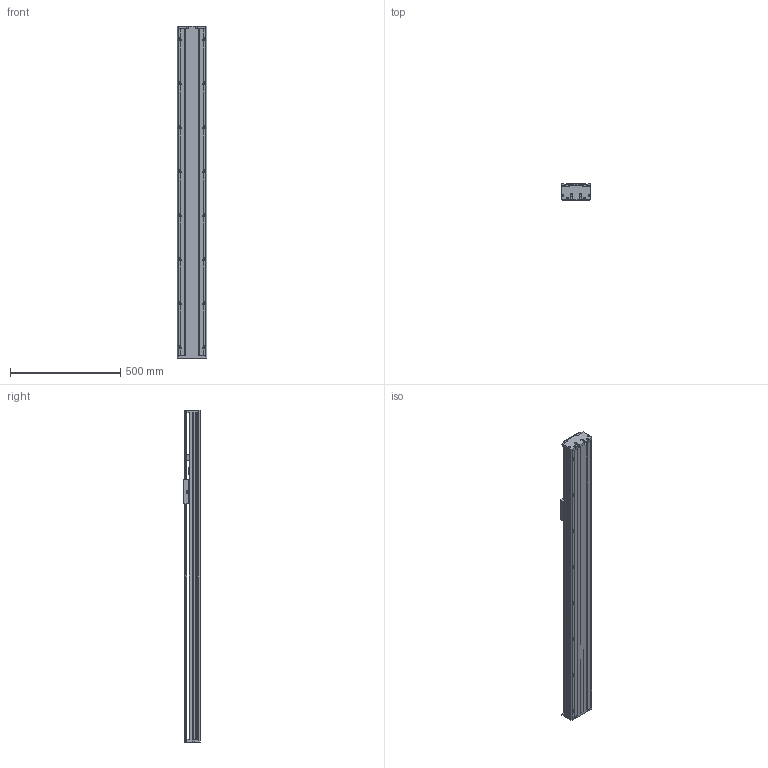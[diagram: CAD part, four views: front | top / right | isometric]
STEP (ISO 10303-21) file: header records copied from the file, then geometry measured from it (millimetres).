
FILE_DESCRIPTION(/* description */ (''),/* implementation_level */ '2;1');
FILE_NAME(/* name */ 'TKA136-FI-1050_asm1.stp',/* time_stamp */ '2016-08-25T16:07:19+08:00',/* author */ (''),/* organization */ (''),/* preprocessor_version */ 'ST-DEVELOPER v15',/* originating_system */ 'SIEMENS PLM Software NX 8.5',/* authorisation */ '');
FILE_SCHEMA (('AUTOMOTIVE_DESIGN { 1 0 10303 214 3 1 1 1 }'));
Length unit declared in the file: millimetre
Products named in the file (3): 100-02; 100-01; TKA136-FI-1050_asm1
Assembly tree (2 placements, depth 2):
  TKA136-FI-1050_asm1
    100-01
    100-02
Bounding box: 136 x 75 x 1509 mm (x, y, z)
Volume: 4499116.2 mm3; surface area: 1710031.3 mm2
Topology: 2 solids, 12 shells, 991 faces, 2906 edges, 1907 vertices
Faces by surface type: cylinder 501, plane 440, cone 50
Full cylindrical faces by diameter (mm): 2.5 x4, 3.3 x8, 4.2 x8, 4.5 x20, 5 x14, 5.5 x14, 8 x20, 10 x9, 10.5 x10, 11.6 x1, 12 x8, 15 x3, 16 x5, 24 x3, 26 x1, 28 x1, 46 x1
Entity records: 35283 total; most frequent: CARTESIAN_POINT 9387, ORIENTED_EDGE 5368, DIRECTION 5270, EDGE_CURVE 2684, AXIS2_PLACEMENT_3D 1960, VERTEX_POINT 1859, LINE 1350, VECTOR 1350
